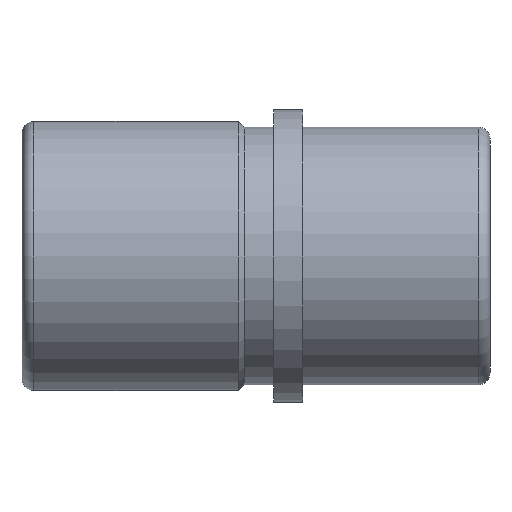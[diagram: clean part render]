
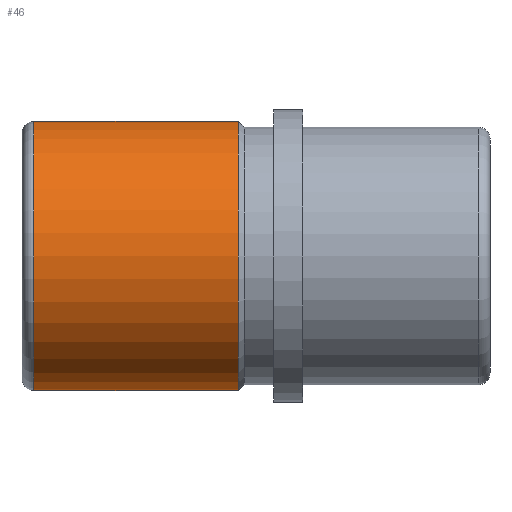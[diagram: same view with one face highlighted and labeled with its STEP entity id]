
A CAD part, front view. The second image highlights one B-rep face of the part: STEP entity #46.
In plain terms, the highlighted cylindrical face has radius 23 mm (diameter 46 mm), a full revolution.
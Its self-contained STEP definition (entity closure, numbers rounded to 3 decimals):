
#46 = ADVANCED_FACE( '', ( #99, #100 ), #101, .T. );
#99 = FACE_OUTER_BOUND( '', #162, .T. );
#100 = FACE_OUTER_BOUND( '', #163, .T. );
#101 = CYLINDRICAL_SURFACE( '', #164, 23. );
#162 = EDGE_LOOP( '', ( #227 ) );
#163 = EDGE_LOOP( '', ( #228 ) );
#164 = AXIS2_PLACEMENT_3D( '', #229, #230, #231 );
#227 = ORIENTED_EDGE( '', *, *, #296, .T. );
#228 = ORIENTED_EDGE( '', *, *, #298, .F. );
#229 = CARTESIAN_POINT( '', ( 32., 0., 0. ) );
#230 = DIRECTION( '', ( -1., 0., 0. ) );
#231 = DIRECTION( '', ( 0., 0., -1. ) );
#296 = EDGE_CURVE( '', #330, #330, #331, .T. );
#298 = EDGE_CURVE( '', #333, #333, #334, .T. );
#330 = VERTEX_POINT( '', #372 );
#331 = CIRCLE( '', #373, 23. );
#333 = VERTEX_POINT( '', #375 );
#334 = CIRCLE( '', #376, 23. );
#372 = CARTESIAN_POINT( '', ( -46., 0., -23. ) );
#373 = AXIS2_PLACEMENT_3D( '', #416, #417, #418 );
#375 = CARTESIAN_POINT( '', ( -11., 0., -23. ) );
#376 = AXIS2_PLACEMENT_3D( '', #419, #420, #421 );
#416 = CARTESIAN_POINT( '', ( -46., 0., 0. ) );
#417 = DIRECTION( '', ( 1., 0., 0. ) );
#418 = DIRECTION( '', ( 0., 0., -1. ) );
#419 = CARTESIAN_POINT( '', ( -11., 0., 0. ) );
#420 = DIRECTION( '', ( 1., 0., 0. ) );
#421 = DIRECTION( '', ( 0., 0., -1. ) );
